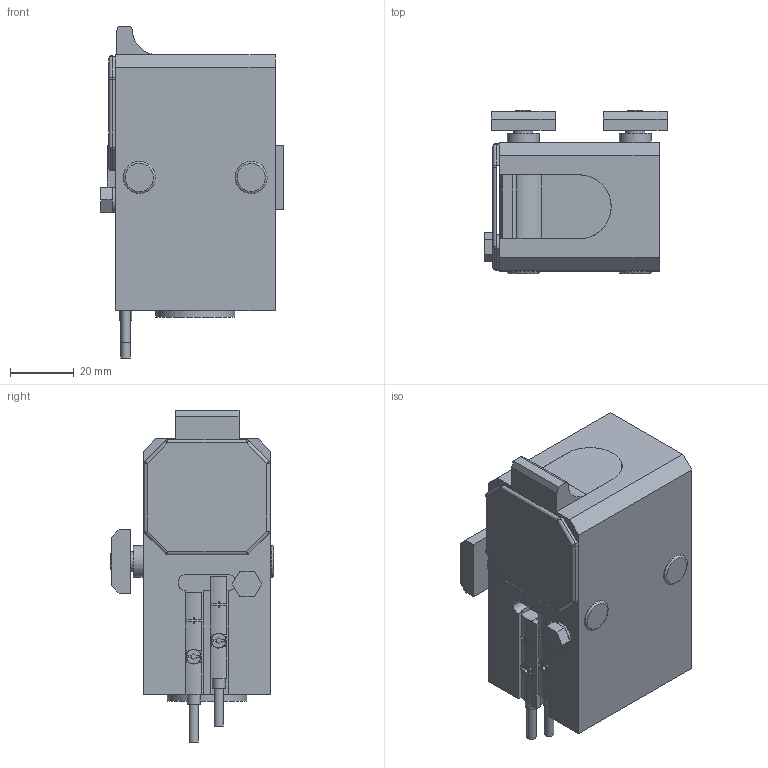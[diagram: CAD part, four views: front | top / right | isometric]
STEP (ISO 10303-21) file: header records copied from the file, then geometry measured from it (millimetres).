
FILE_DESCRIPTION(/* description */ (''),/* implementation_level */ '2;1');
FILE_NAME(/* name */ 'C:\Marketing\01_Versamove-SPU_STEP-Dateien-Homepage\Versamove plus\ASU-400_Reed.stp',/* time_stamp */ '2016-12-22T15:12:32+01:00',/* author */ ('herbert.engels'),/* organization */ (''),/* preprocessor_version */ 'ST-DEVELOPER v15.6',/* originating_system */ 'Autodesk Inventor 2015',/* authorisation */ '');
FILE_SCHEMA (('CONFIG_CONTROL_DESIGN'));
Length unit declared in the file: millimetre
Products named in the file (1): ASU-400_Reed
Bounding box: 57 x 51 x 103.82 mm (x, y, z)
Volume: 163741.8 mm3; surface area: 28985.5 mm2
Topology: 1 solids, 1 shells, 261 faces, 697 edges, 449 vertices
Faces by surface type: plane 181, cylinder 66, sphere 8, cone 4, torus 2
Full cylindrical faces by diameter (mm): 2.9 x2, 3.4 x2, 4 x4, 4.5 x2, 6 x2, 7.8 x1, 10 x4, 20 x1, 24.8 x1
Entity records: 8209 total; most frequent: CARTESIAN_POINT 1391, DIRECTION 1354, ORIENTED_EDGE 1312, EDGE_CURVE 656, LINE 474, VECTOR 474, AXIS2_PLACEMENT_3D 440, VERTEX_POINT 437
